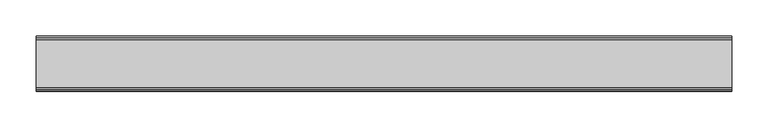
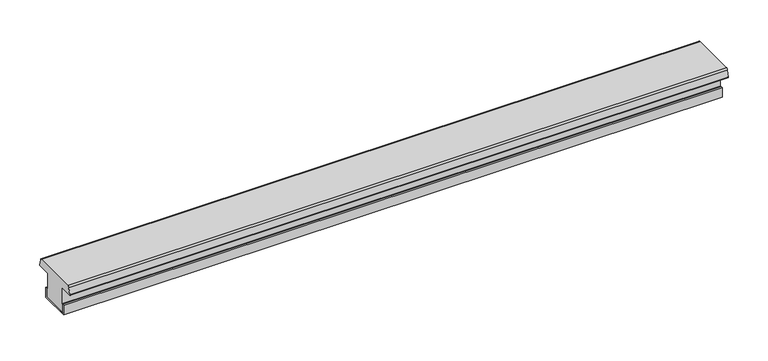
"""IFC4 building model written with IfcOpenShell, lengths in millimetres: proxy geometry, Weiku - Montante - Divisor 02.2.01.040 : Weiku - Montante - Divisor 02.2.01.040."""

from ifc_helpers import new_model, si_unit, point, frame, frame_2d, origin, place, context, project, spatial, polyline, circle_curve, trimmed, segment, composite_curve, outline, extrude, source, transform, mapped, element, save


def generic_models_c32b024c(model_context):
    return source(origin(), model_context, "Body", "SweptSolid", [
        extrude(outline(polyline([(20.5, 0.0), (20.5, 12.972419), (22.5, 12.972419), (22.5, -2.0), (-22.5, -2.0), (-22.5, 12.972419), (-20.5, 12.972419), (-20.5, 0.0), (20.5, 0.0)])), frame((-480.55, 0.0, 0.0), z_axis=(1.0, 0.0, 0.0), x_axis=(0.0, 1.0, 0.0)), (0.0, 0.0, 1.0), 961.1),
        extrude(outline(composite_curve([segment(polyline([(-33.0007245, 50.0), (33.0007245, 50.0)]), True, "CONTINUOUS"), segment(trimmed(circle_curve(frame_2d((33.0007245, 47.0)), 3.0), [point((33.0007245, 50.0))], [point((35.898502, 47.7764571))], False, "CARTESIAN"), True, "CONTINUOUS"), segment(polyline([(35.898502, 47.7764571), (38.4496907, 38.2552914)]), True, "CONTINUOUS"), segment(trimmed(circle_curve(frame_2d((37.8701352, 38.1)), 0.6), [point((38.4496907, 38.2552914))], [point((37.8701352, 37.5))], False, "CARTESIAN"), True, "CONTINUOUS"), segment(polyline([(37.8701352, 37.5), (17.5004577, 37.5), (17.5004577, 12.168694), (20.5, 12.972419), (20.5, 0.0), (-20.5, 0.0), (-20.5, 12.972419), (-17.5004577, 12.168694), (-17.5004577, 37.5), (-37.8701352, 37.5)]), True, "CONTINUOUS"), segment(trimmed(circle_curve(frame_2d((-37.8701352, 38.1)), 0.6), [point((-37.8701352, 37.5))], [point((-38.4496907, 38.2552914))], False, "CARTESIAN"), True, "CONTINUOUS"), segment(polyline([(-38.4496907, 38.2552914), (-35.898502, 47.7764571)]), True, "CONTINUOUS"), segment(trimmed(circle_curve(frame_2d((-33.0007245, 47.0)), 3.0), [point((-35.898502, 47.7764571))], [point((-33.0007245, 50.0))], False, "CARTESIAN"), True, "CONTINUOUS")], self_intersect=False)), frame((-480.55, 0.0, 0.0), z_axis=(1.0, 0.0, 0.0), x_axis=(0.0, 1.0, 0.0)), (0.0, 0.0, 1.0), 961.1),
    ])


if __name__ == "__main__":
    model = new_model("IFC4")
    model_context = context("Model", 3, world=origin())
    ifc_project = project(units=[si_unit("LENGTHUNIT", "METRE", prefix="MILLI")], contexts=[model_context])
    site = spatial("IfcSite", under=ifc_project)
    building = spatial("IfcBuilding", under=site)
    placement = place(None, origin())
    generic_models_shape = generic_models_c32b024c(model_context)
    element("IfcBuildingElementProxy", 1, Name="Weiku - Montante - Divisor 02.2.01.040 : Weiku - Montante - Divisor 02.2.01.040", ObjectType="Weiku - Montante - Divisor 02.2.01.040 : Weiku - Montante - Divisor 02.2.01.040", at=placement, inside=building, context=model_context, shape_type="MappedRepresentation", body=[
        mapped(generic_models_shape, transform((0.0, 0.0, 0.0), x_axis=(1.0, 0.0, 0.0), y_axis=(0.0, 1.0, 0.0), z_axis=(0.0, 0.0, 1.0))),
    ])
    save(model, "model.ifc")
